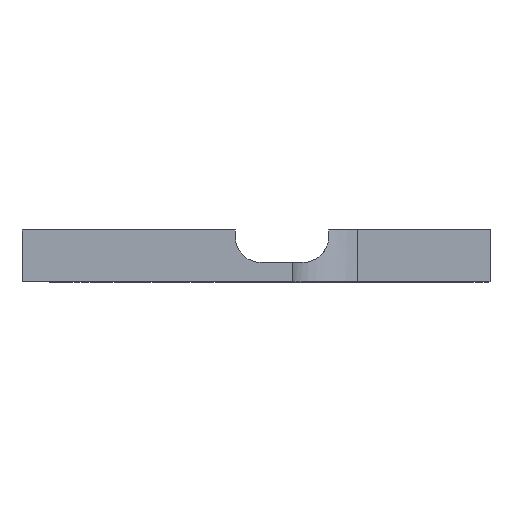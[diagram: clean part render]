
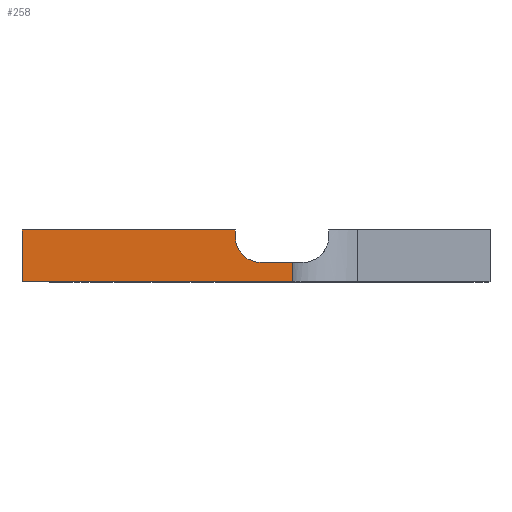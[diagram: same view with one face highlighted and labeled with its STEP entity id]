
A CAD part, front view. The second image highlights one B-rep face of the part: STEP entity #258.
In plain terms, the highlighted planar face has unit normal (0, -1, 0).
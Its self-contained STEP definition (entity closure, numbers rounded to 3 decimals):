
#258=ADVANCED_FACE('',(#304),#283,.T.);
#283=PLANE('',#1145);
#304=FACE_OUTER_BOUND('',#399,.T.);
#399=EDGE_LOOP('',(#680,#681,#682,#683,#684,#685,#686));
#420=CIRCLE('',#1056,1.);
#680=ORIENTED_EDGE('',*,*,#920,.T.);
#681=ORIENTED_EDGE('',*,*,#816,.F.);
#682=ORIENTED_EDGE('',*,*,#832,.F.);
#683=ORIENTED_EDGE('',*,*,#836,.F.);
#684=ORIENTED_EDGE('',*,*,#843,.F.);
#685=ORIENTED_EDGE('',*,*,#913,.F.);
#686=ORIENTED_EDGE('',*,*,#862,.F.);
#715=VERTEX_POINT('',#1444);
#725=VERTEX_POINT('',#1464);
#736=VERTEX_POINT('',#1511);
#738=VERTEX_POINT('',#1519);
#743=VERTEX_POINT('',#1533);
#761=VERTEX_POINT('',#1573);
#762=VERTEX_POINT('',#1575);
#816=EDGE_CURVE('',#725,#715,#934,.T.);
#832=EDGE_CURVE('',#736,#725,#420,.T.);
#836=EDGE_CURVE('',#738,#736,#948,.T.);
#843=EDGE_CURVE('',#743,#738,#952,.T.);
#862=EDGE_CURVE('',#761,#762,#958,.T.);
#913=EDGE_CURVE('',#762,#743,#977,.T.);
#920=EDGE_CURVE('',#761,#715,#982,.T.);
#934=LINE('',#1465,#994);
#948=LINE('',#1520,#1008);
#952=LINE('',#1534,#1012);
#958=LINE('',#1574,#1018);
#977=LINE('',#1689,#1037);
#982=LINE('',#1703,#1042);
#994=VECTOR('',#1172,1.);
#1008=VECTOR('',#1210,1.);
#1012=VECTOR('',#1224,1.);
#1018=VECTOR('',#1262,1.);
#1037=VECTOR('',#1397,1.);
#1042=VECTOR('',#1414,1.);
#1056=AXIS2_PLACEMENT_3D('',#1512,#1200,#1201);
#1145=AXIS2_PLACEMENT_3D('',#1704,#1415,#1416);
#1172=DIRECTION('',(1.,0.,0.));
#1200=DIRECTION('',(0.,-1.,0.));
#1201=DIRECTION('',(-1.,0.,0.));
#1210=DIRECTION('',(0.,0.,-1.));
#1224=DIRECTION('',(1.,0.,0.));
#1262=DIRECTION('',(-1.,0.,0.));
#1397=DIRECTION('',(0.,0.,1.));
#1414=DIRECTION('',(0.,0.,1.));
#1415=DIRECTION('',(0.,-1.,0.));
#1416=DIRECTION('',(0.,0.,-1.));
#1444=CARTESIAN_POINT('',(294.4,0.,0.75));
#1464=CARTESIAN_POINT('',(293.2,0.,0.75));
#1465=CARTESIAN_POINT('',(293.2,0.,0.75));
#1511=CARTESIAN_POINT('',(292.2,0.,1.75));
#1512=CARTESIAN_POINT('',(293.2,0.,1.75));
#1519=CARTESIAN_POINT('',(292.2,0.,2.));
#1520=CARTESIAN_POINT('',(292.2,0.,2.));
#1533=CARTESIAN_POINT('',(284.,0.,2.));
#1534=CARTESIAN_POINT('',(284.,0.,2.));
#1573=CARTESIAN_POINT('',(294.4,0.,0.));
#1574=CARTESIAN_POINT('',(304.,0.,0.));
#1575=CARTESIAN_POINT('',(284.,0.,0.));
#1689=CARTESIAN_POINT('',(284.,0.,0.));
#1703=CARTESIAN_POINT('',(294.4,0.,3.));
#1704=CARTESIAN_POINT('',(293.,0.,19.843));
